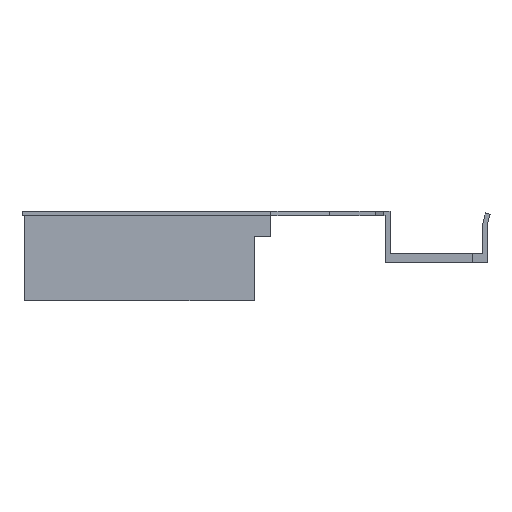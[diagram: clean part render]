
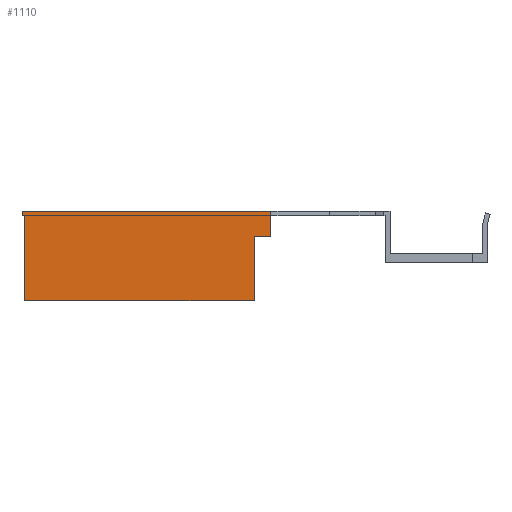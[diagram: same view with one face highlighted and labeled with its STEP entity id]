
A CAD part, left-side view. The second image highlights one B-rep face of the part: STEP entity #1110.
In plain terms, the highlighted planar face has unit normal (-1, 0, 0).
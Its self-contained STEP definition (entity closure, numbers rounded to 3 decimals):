
#27 = VERTEX_POINT ( 'NONE', #28 ) ;
#28 = CARTESIAN_POINT ( 'NONE',  ( -517., 21.2, 7.5 ) ) ;
#38 = VERTEX_POINT ( 'NONE', #155 ) ;
#50 = VERTEX_POINT ( 'NONE', #143 ) ;
#92 = VERTEX_POINT ( 'NONE', #1125 ) ;
#105 = VERTEX_POINT ( 'NONE', #1138 ) ;
#112 = VERTEX_POINT ( 'NONE', #1145 ) ;
#143 = CARTESIAN_POINT ( 'NONE',  ( -517., 65.5, 6.7 ) ) ;
#155 = CARTESIAN_POINT ( 'NONE',  ( -517., 65.5, 7.5 ) ) ;
#163 = VERTEX_POINT ( 'NONE', #1152 ) ;
#165 = VERTEX_POINT ( 'NONE', #1154 ) ;
#205 = EDGE_LOOP ( 'NONE', ( #472, #473, #474, #475, #476, #477, #478, #479 ) ) ;
#472 = ORIENTED_EDGE ( 'NONE', *, *, #927, .F. ) ;
#473 = ORIENTED_EDGE ( 'NONE', *, *, #952, .T. ) ;
#474 = ORIENTED_EDGE ( 'NONE', *, *, #949, .T. ) ;
#475 = ORIENTED_EDGE ( 'NONE', *, *, #943, .T. ) ;
#476 = ORIENTED_EDGE ( 'NONE', *, *, #965, .T. ) ;
#477 = ORIENTED_EDGE ( 'NONE', *, *, #948, .F. ) ;
#478 = ORIENTED_EDGE ( 'NONE', *, *, #894, .F. ) ;
#479 = ORIENTED_EDGE ( 'NONE', *, *, #908, .F. ) ;
#580 = LINE ( 'NONE', #1254, #581 ) ;
#581 = VECTOR ( 'NONE', #1255, 1000. ) ;
#608 = LINE ( 'NONE', #1282, #609 ) ;
#609 = VECTOR ( 'NONE', #1283, 1000. ) ;
#613 = LINE ( 'NONE', #1306, #646 ) ;
#646 = VECTOR ( 'NONE', #1321, 1000. ) ;
#675 = LINE ( 'NONE', #1354, #676 ) ;
#676 = VECTOR ( 'NONE', #1355, 1000. ) ;
#679 = LINE ( 'NONE', #1353, #685 ) ;
#685 = VECTOR ( 'NONE', #1366, 1000. ) ;
#687 = LINE ( 'NONE', #1367, #688 ) ;
#688 = VECTOR ( 'NONE', #1368, 1000. ) ;
#693 = LINE ( 'NONE', #1373, #694 ) ;
#694 = VECTOR ( 'NONE', #1374, 1000. ) ;
#719 = LINE ( 'NONE', #1399, #720 ) ;
#720 = VECTOR ( 'NONE', #1400, 1000. ) ;
#839 = FACE_OUTER_BOUND ( 'NONE', #205, .T. ) ;
#894 = EDGE_CURVE ( 'NONE', #38, #27, #580, .T. ) ;
#908 = EDGE_CURVE ( 'NONE', #50, #38, #608, .T. ) ;
#927 = EDGE_CURVE ( 'NONE', #165, #50, #613, .T. ) ;
#943 = EDGE_CURVE ( 'NONE', #112, #92, #675, .T. ) ;
#948 = EDGE_CURVE ( 'NONE', #27, #163, #679, .T. ) ;
#949 = EDGE_CURVE ( 'NONE', #105, #112, #687, .T. ) ;
#952 = EDGE_CURVE ( 'NONE', #165, #105, #693, .T. ) ;
#965 = EDGE_CURVE ( 'NONE', #92, #163, #719, .T. ) ;
#1056 = AXIS2_PLACEMENT_3D ( 'NONE', #1637, #1643, #1644 ) ;
#1110 = ADVANCED_FACE ( 'NONE', ( #839 ), #1634, .T. ) ;
#1125 = CARTESIAN_POINT ( 'NONE',  ( -517., 24.2, 3. ) ) ;
#1138 = CARTESIAN_POINT ( 'NONE',  ( -517., 65., -8.5 ) ) ;
#1145 = CARTESIAN_POINT ( 'NONE',  ( -517., 24.2, -8.5 ) ) ;
#1152 = CARTESIAN_POINT ( 'NONE',  ( -517., 21.2, 3. ) ) ;
#1154 = CARTESIAN_POINT ( 'NONE',  ( -517., 65., 6.7 ) ) ;
#1254 = CARTESIAN_POINT ( 'NONE',  ( -517., 0., 7.5 ) ) ;
#1255 = DIRECTION ( 'NONE',  ( 0., -1., 0. ) ) ;
#1282 = CARTESIAN_POINT ( 'NONE',  ( -517., 65.5, 7.5 ) ) ;
#1283 = DIRECTION ( 'NONE',  ( 0., 0., 1. ) ) ;
#1306 = CARTESIAN_POINT ( 'NONE',  ( -517., 0.8, 6.7 ) ) ;
#1321 = DIRECTION ( 'NONE',  ( 0., 1., 0. ) ) ;
#1353 = CARTESIAN_POINT ( 'NONE',  ( -517., 21.2, 0. ) ) ;
#1354 = CARTESIAN_POINT ( 'NONE',  ( -517., 24.2, -8.5 ) ) ;
#1355 = DIRECTION ( 'NONE',  ( 0., 0., 1. ) ) ;
#1366 = DIRECTION ( 'NONE',  ( 0., 0., -1. ) ) ;
#1367 = CARTESIAN_POINT ( 'NONE',  ( -517., 65., -8.5 ) ) ;
#1368 = DIRECTION ( 'NONE',  ( 0., -1., 0. ) ) ;
#1373 = CARTESIAN_POINT ( 'NONE',  ( -517., 65., 7.5 ) ) ;
#1374 = DIRECTION ( 'NONE',  ( 0., 0., -1. ) ) ;
#1399 = CARTESIAN_POINT ( 'NONE',  ( -517., 24.2, 3. ) ) ;
#1400 = DIRECTION ( 'NONE',  ( 0., -1., 0. ) ) ;
#1634 = PLANE ( 'NONE',  #1056 ) ;
#1637 = CARTESIAN_POINT ( 'NONE',  ( -517., -16.5, 0. ) ) ;
#1643 = DIRECTION ( 'NONE',  ( -1., 0., 0. ) ) ;
#1644 = DIRECTION ( 'NONE',  ( 0., 0., 1. ) ) ;
